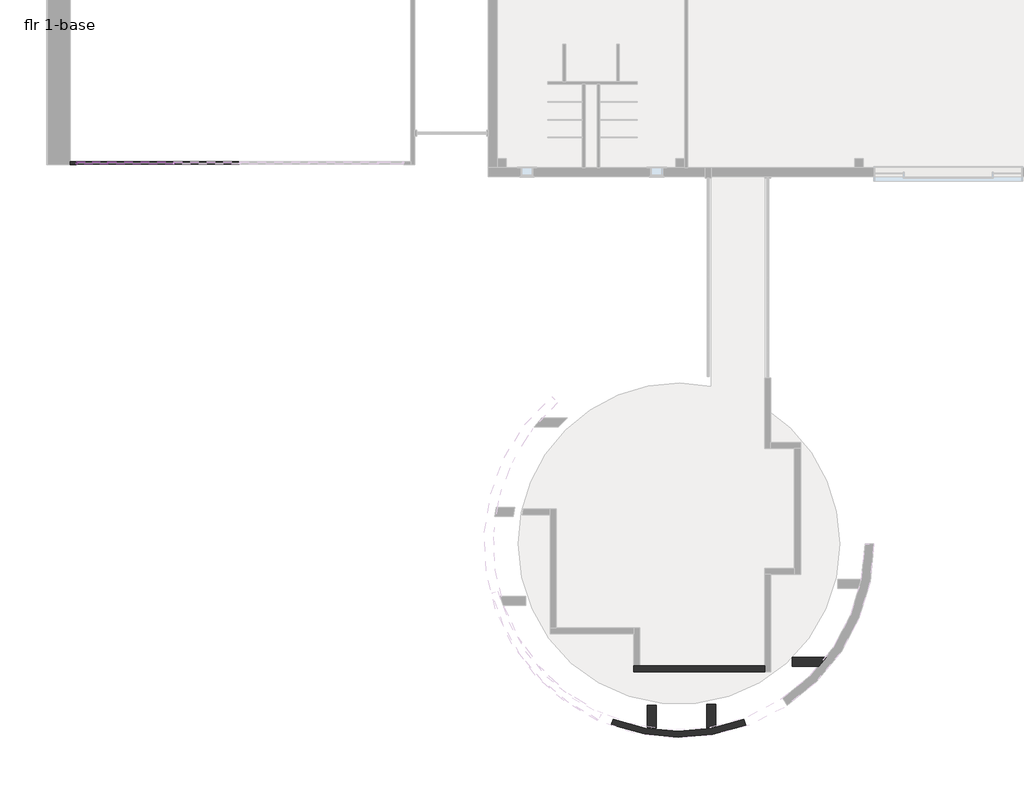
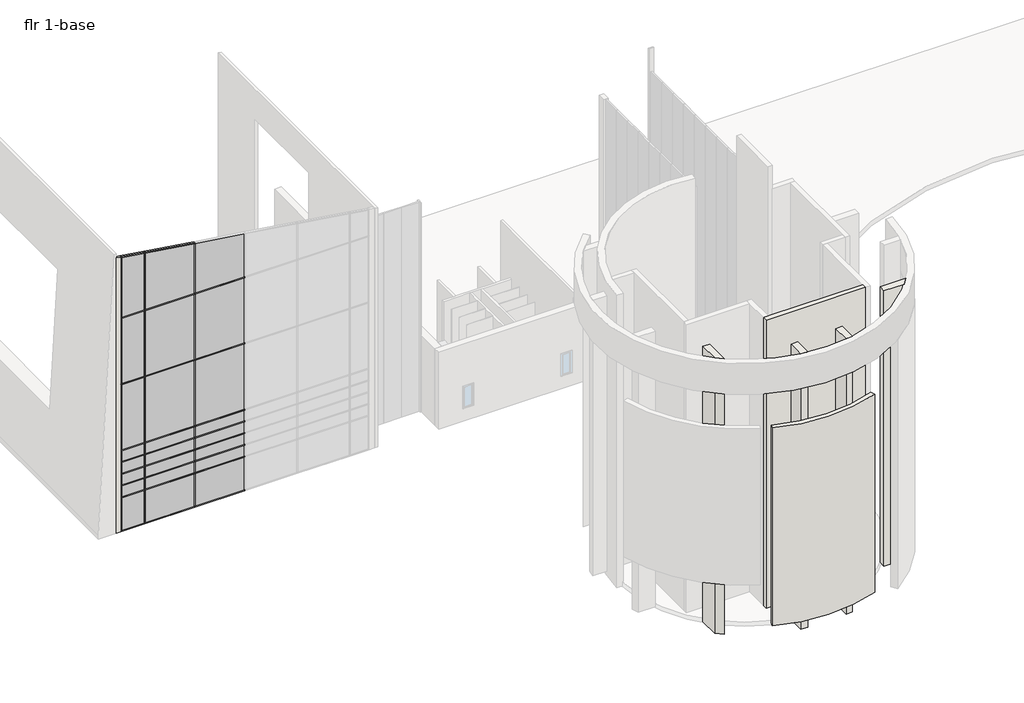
# One storey, part 1 of 5: 50 members, 24 plates, 7 walls.
"""IFC4 building model written with IfcOpenShell, lengths in millimetres."""

from ifc_helpers import new_model, si_unit, point, frame, frame_2d, origin, origin_with_axes, place, context, project, spatial, polyline, circle_curve, trimmed, segment, composite_curve, outline, extrude, faceted_brep, transform, mapped, element, save
from components import system_panel_system_panel_2bfd969f, system_panel_system_panel_0e6ba828, system_panel_system_panel_d1642839, system_panel_system_panel_565ce332, system_panel_system_panel_8f48589a, system_panel_system_panel_567afef9, system_panel_system_panel_943f1462, system_panel_system_panel_86a0993d, system_panel_system_panel_4b7a4dd4

model = new_model("IFC4")

# Units and contexts
model_context = context("Model", 3, world=origin())
ifc_project = project(units=[si_unit("LENGTHUNIT", "METRE", prefix="MILLI")], contexts=[model_context])

# Site, building, storey
site = spatial("IfcSite", under=ifc_project)
building = spatial("IfcBuilding", under=site)
storey = spatial("IfcBuildingStorey", under=building, Name="flr 1-base", Elevation=0.0)

# Members
placement = place(None, origin())
element("IfcMember", 1, ObjectType="Rectangular Mullion : 2.5\" x 5\" rectangular", at=placement, inside=storey, context=model_context, shape_type="SweptSolid", body=[
    extrude(outline(polyline([(-137116.490902, 25250.9071029), (-137116.490902, 25377.9071029), (-135500.981914, 25377.9071029), (-135500.981914, 25250.9071029), (-137116.490902, 25250.9071029)])), frame((0.0, 0.0, -304.8), z_axis=(0.0, 0.0, 1.0), x_axis=(1.0, 0.0, 0.0)), (0.0, 0.0, 1.0), 63.5),
])
element("IfcMember", 2, ObjectType="Rectangular Mullion : 2.5\" x 5\" rectangular", at=placement, inside=storey, context=model_context, shape_type="SweptSolid", body=[
    extrude(outline(polyline([(19236.6566492, -137052.990902), (19310.1390555, -137116.490902), (14966.95, -137116.490902), (14966.95, -137052.990902), (19236.6566492, -137052.990902)])), frame((0.0, 25250.9071029, 0.0), z_axis=(0.0, 1.0, 0.0), x_axis=(0.0, 0.0, 1.0)), (0.0, 0.0, 1.0), 127.0),
])
element("IfcMember", 3, ObjectType="Rectangular Mullion : 2.5\" x 5\" rectangular", at=placement, inside=storey, context=model_context, shape_type="SweptSolid", body=[
    extrude(outline(polyline([(-135469.231914, 25250.9071029), (-135532.731914, 25250.9071029), (-135532.731914, 25377.9071029), (-135469.231914, 25377.9071029), (-135469.231914, 25250.9071029)])), frame((0.0, 0.0, -241.3), z_axis=(0.0, 0.0, 1.0), x_axis=(1.0, 0.0, 0.0)), (0.0, 0.0, 1.0), 2343.15),
])
element("IfcMember", 4, ObjectType="Rectangular Mullion : 2.5\" x 5\" rectangular", at=placement, inside=storey, context=model_context, shape_type="SweptSolid", body=[
    extrude(outline(polyline([(-132085.986408, 25250.9071029), (-132149.486408, 25250.9071029), (-132149.486408, 25377.9071029), (-132085.986408, 25377.9071029), (-132085.986408, 25250.9071029)])), frame((0.0, 0.0, -241.3), z_axis=(0.0, 0.0, 1.0), x_axis=(1.0, 0.0, 0.0)), (0.0, 0.0, 1.0), 2343.15),
])
element("IfcMember", 5, ObjectType="Rectangular Mullion : 2.5\" x 5\" rectangular", at=placement, inside=storey, context=model_context, shape_type="SweptSolid", body=[
    extrude(outline(polyline([(-135500.981914, 25377.9071029), (-135500.981914, 25250.9071029), (-137116.490902, 25250.9071029), (-137116.490902, 25377.9071029), (-135500.981914, 25377.9071029)])), frame((0.0, 0.0, 2101.85), z_axis=(0.0, 0.0, 1.0), x_axis=(1.0, 0.0, 0.0)), (0.0, 0.0, 1.0), 63.5),
])
element("IfcMember", 6, ObjectType="Rectangular Mullion : 2.5\" x 5\" rectangular", at=placement, inside=storey, context=model_context, shape_type="SweptSolid", body=[
    extrude(outline(polyline([(-132117.736408, 25377.9071029), (-132117.736408, 25250.9071029), (-135500.981914, 25250.9071029), (-135500.981914, 25377.9071029), (-132117.736408, 25377.9071029)])), frame((0.0, 0.0, 2101.85), z_axis=(0.0, 0.0, 1.0), x_axis=(1.0, 0.0, 0.0)), (0.0, 0.0, 1.0), 63.5),
])
element("IfcMember", 7, ObjectType="Rectangular Mullion : 2.5\" x 5\" rectangular", at=placement, inside=storey, context=model_context, shape_type="SweptSolid", body=[
    extrude(outline(polyline([(-128734.490902, 25377.9071029), (-128734.490902, 25250.9071029), (-132117.736408, 25250.9071029), (-132117.736408, 25377.9071029), (-128734.490902, 25377.9071029)])), frame((0.0, 0.0, 2101.85), z_axis=(0.0, 0.0, 1.0), x_axis=(1.0, 0.0, 0.0)), (0.0, 0.0, 1.0), 63.5),
])
element("IfcMember", 8, ObjectType="Rectangular Mullion : 2.5\" x 5\" rectangular", at=placement, inside=storey, context=model_context, shape_type="SweptSolid", body=[
    extrude(outline(polyline([(-135500.981914, 25377.9071029), (-135500.981914, 25250.9071029), (-137116.490902, 25250.9071029), (-137116.490902, 25377.9071029), (-135500.981914, 25377.9071029)])), frame((0.0, 0.0, 5454.65), z_axis=(0.0, 0.0, 1.0), x_axis=(1.0, 0.0, 0.0)), (0.0, 0.0, 1.0), 63.5),
])
element("IfcMember", 9, ObjectType="Rectangular Mullion : 2.5\" x 5\" rectangular", at=placement, inside=storey, context=model_context, shape_type="SweptSolid", body=[
    extrude(outline(polyline([(-132117.736408, 25377.9071029), (-132117.736408, 25250.9071029), (-135500.981914, 25250.9071029), (-135500.981914, 25377.9071029), (-132117.736408, 25377.9071029)])), frame((0.0, 0.0, 5454.65), z_axis=(0.0, 0.0, 1.0), x_axis=(1.0, 0.0, 0.0)), (0.0, 0.0, 1.0), 63.5),
])
element("IfcMember", 10, ObjectType="Rectangular Mullion : 2.5\" x 5\" rectangular", at=placement, inside=storey, context=model_context, shape_type="SweptSolid", body=[
    extrude(outline(polyline([(-128734.490902, 25377.9071029), (-128734.490902, 25250.9071029), (-132117.736408, 25250.9071029), (-132117.736408, 25377.9071029), (-128734.490902, 25377.9071029)])), frame((0.0, 0.0, 5454.65), z_axis=(0.0, 0.0, 1.0), x_axis=(1.0, 0.0, 0.0)), (0.0, 0.0, 1.0), 63.5),
])
element("IfcMember", 11, ObjectType="Rectangular Mullion : 2.5\" x 5\" rectangular", at=placement, inside=storey, context=model_context, shape_type="SweptSolid", body=[
    extrude(outline(polyline([(-135500.981914, 25377.9071029), (-135500.981914, 25250.9071029), (-137116.490902, 25250.9071029), (-137116.490902, 25377.9071029), (-135500.981914, 25377.9071029)])), frame((0.0, 0.0, 10179.05), z_axis=(0.0, 0.0, 1.0), x_axis=(1.0, 0.0, 0.0)), (0.0, 0.0, 1.0), 63.5),
])
element("IfcMember", 12, ObjectType="Rectangular Mullion : 2.5\" x 5\" rectangular", at=placement, inside=storey, context=model_context, shape_type="SweptSolid", body=[
    extrude(outline(polyline([(-132117.736408, 25377.9071029), (-132117.736408, 25250.9071029), (-135500.981914, 25250.9071029), (-135500.981914, 25377.9071029), (-132117.736408, 25377.9071029)])), frame((0.0, 0.0, 10179.05), z_axis=(0.0, 0.0, 1.0), x_axis=(1.0, 0.0, 0.0)), (0.0, 0.0, 1.0), 63.5),
])
element("IfcMember", 13, ObjectType="Rectangular Mullion : 2.5\" x 5\" rectangular", at=placement, inside=storey, context=model_context, shape_type="SweptSolid", body=[
    extrude(outline(polyline([(-128734.490902, 25377.9071029), (-128734.490902, 25250.9071029), (-132117.736408, 25250.9071029), (-132117.736408, 25377.9071029), (-128734.490902, 25377.9071029)])), frame((0.0, 0.0, 10179.05), z_axis=(0.0, 0.0, 1.0), x_axis=(1.0, 0.0, 0.0)), (0.0, 0.0, 1.0), 63.5),
])
element("IfcMember", 14, ObjectType="Rectangular Mullion : 2.5\" x 5\" rectangular", at=placement, inside=storey, context=model_context, shape_type="SweptSolid", body=[
    extrude(outline(polyline([(-135500.981914, 25377.9071029), (-135500.981914, 25250.9071029), (-137116.490902, 25250.9071029), (-137116.490902, 25377.9071029), (-135500.981914, 25377.9071029)])), frame((0.0, 0.0, 14903.45), z_axis=(0.0, 0.0, 1.0), x_axis=(1.0, 0.0, 0.0)), (0.0, 0.0, 1.0), 63.5),
])
element("IfcMember", 15, ObjectType="Rectangular Mullion : 2.5\" x 5\" rectangular", at=placement, inside=storey, context=model_context, shape_type="SweptSolid", body=[
    extrude(outline(polyline([(-132117.736408, 25377.9071029), (-132117.736408, 25250.9071029), (-135500.981914, 25250.9071029), (-135500.981914, 25377.9071029), (-132117.736408, 25377.9071029)])), frame((0.0, 0.0, 14903.45), z_axis=(0.0, 0.0, 1.0), x_axis=(1.0, 0.0, 0.0)), (0.0, 0.0, 1.0), 63.5),
])
element("IfcMember", 16, ObjectType="Rectangular Mullion : 2.5\" x 5\" rectangular", at=placement, inside=storey, context=model_context, shape_type="SweptSolid", body=[
    extrude(outline(polyline([(-128734.490902, 25377.9071029), (-128734.490902, 25250.9071029), (-132117.736408, 25250.9071029), (-132117.736408, 25377.9071029), (-128734.490902, 25377.9071029)])), frame((0.0, 0.0, 14903.45), z_axis=(0.0, 0.0, 1.0), x_axis=(1.0, 0.0, 0.0)), (0.0, 0.0, 1.0), 63.5),
])
element("IfcMember", 17, ObjectType="Rectangular Mullion : 2.5\" x 5\" rectangular", at=placement, inside=storey, context=model_context, shape_type="SweptSolid", body=[
    extrude(outline(polyline([(-135500.981914, 25377.9071029), (-135500.981914, 25250.9071029), (-137116.490902, 25250.9071029), (-137116.490902, 25377.9071029), (-135500.981914, 25377.9071029)])), frame((0.0, 0.0, 3778.25), z_axis=(0.0, 0.0, 1.0), x_axis=(1.0, 0.0, 0.0)), (0.0, 0.0, 1.0), 63.5),
])
element("IfcMember", 18, ObjectType="Rectangular Mullion : 2.5\" x 5\" rectangular", at=placement, inside=storey, context=model_context, shape_type="SweptSolid", body=[
    extrude(outline(polyline([(-132117.736408, 25377.9071029), (-132117.736408, 25250.9071029), (-135500.981914, 25250.9071029), (-135500.981914, 25377.9071029), (-132117.736408, 25377.9071029)])), frame((0.0, 0.0, 3778.25), z_axis=(0.0, 0.0, 1.0), x_axis=(1.0, 0.0, 0.0)), (0.0, 0.0, 1.0), 63.5),
])
element("IfcMember", 19, ObjectType="Rectangular Mullion : 2.5\" x 5\" rectangular", at=placement, inside=storey, context=model_context, shape_type="SweptSolid", body=[
    extrude(outline(polyline([(-128734.490902, 25377.9071029), (-128734.490902, 25250.9071029), (-132117.736408, 25250.9071029), (-132117.736408, 25377.9071029), (-128734.490902, 25377.9071029)])), frame((0.0, 0.0, 3778.25), z_axis=(0.0, 0.0, 1.0), x_axis=(1.0, 0.0, 0.0)), (0.0, 0.0, 1.0), 63.5),
])
element("IfcMember", 20, ObjectType="Rectangular Mullion : 2.5\" x 5\" rectangular", at=placement, inside=storey, context=model_context, shape_type="SweptSolid", body=[
    extrude(outline(polyline([(-135500.981914, 25377.9071029), (-135500.981914, 25250.9071029), (-137116.490902, 25250.9071029), (-137116.490902, 25377.9071029), (-135500.981914, 25377.9071029)])), frame((0.0, 0.0, 2940.05), z_axis=(0.0, 0.0, 1.0), x_axis=(1.0, 0.0, 0.0)), (0.0, 0.0, 1.0), 63.5),
])
element("IfcMember", 21, ObjectType="Rectangular Mullion : 2.5\" x 5\" rectangular", at=placement, inside=storey, context=model_context, shape_type="SweptSolid", body=[
    extrude(outline(polyline([(-132117.736408, 25377.9071029), (-132117.736408, 25250.9071029), (-135500.981914, 25250.9071029), (-135500.981914, 25377.9071029), (-132117.736408, 25377.9071029)])), frame((0.0, 0.0, 2940.05), z_axis=(0.0, 0.0, 1.0), x_axis=(1.0, 0.0, 0.0)), (0.0, 0.0, 1.0), 63.5),
])
element("IfcMember", 22, ObjectType="Rectangular Mullion : 2.5\" x 5\" rectangular", at=placement, inside=storey, context=model_context, shape_type="SweptSolid", body=[
    extrude(outline(polyline([(-128734.490902, 25377.9071029), (-128734.490902, 25250.9071029), (-132117.736408, 25250.9071029), (-132117.736408, 25377.9071029), (-128734.490902, 25377.9071029)])), frame((0.0, 0.0, 2940.05), z_axis=(0.0, 0.0, 1.0), x_axis=(1.0, 0.0, 0.0)), (0.0, 0.0, 1.0), 63.5),
])
element("IfcMember", 23, ObjectType="Rectangular Mullion : 2.5\" x 5\" rectangular", at=placement, inside=storey, context=model_context, shape_type="SweptSolid", body=[
    extrude(outline(polyline([(-135500.981914, 25377.9071029), (-135500.981914, 25250.9071029), (-137116.490902, 25250.9071029), (-137116.490902, 25377.9071029), (-135500.981914, 25377.9071029)])), frame((0.0, 0.0, 4616.45), z_axis=(0.0, 0.0, 1.0), x_axis=(1.0, 0.0, 0.0)), (0.0, 0.0, 1.0), 63.5),
])
element("IfcMember", 24, ObjectType="Rectangular Mullion : 2.5\" x 5\" rectangular", at=placement, inside=storey, context=model_context, shape_type="SweptSolid", body=[
    extrude(outline(polyline([(-132117.736408, 25377.9071029), (-132117.736408, 25250.9071029), (-135500.981914, 25250.9071029), (-135500.981914, 25377.9071029), (-132117.736408, 25377.9071029)])), frame((0.0, 0.0, 4616.45), z_axis=(0.0, 0.0, 1.0), x_axis=(1.0, 0.0, 0.0)), (0.0, 0.0, 1.0), 63.5),
])
element("IfcMember", 25, ObjectType="Rectangular Mullion : 2.5\" x 5\" rectangular", at=placement, inside=storey, context=model_context, shape_type="SweptSolid", body=[
    extrude(outline(polyline([(-128734.490902, 25377.9071029), (-128734.490902, 25250.9071029), (-132117.736408, 25250.9071029), (-132117.736408, 25377.9071029), (-128734.490902, 25377.9071029)])), frame((0.0, 0.0, 4616.45), z_axis=(0.0, 0.0, 1.0), x_axis=(1.0, 0.0, 0.0)), (0.0, 0.0, 1.0), 63.5),
])
element("IfcMember", 26, ObjectType="Rectangular Mullion : 2.5\" x 5\" rectangular", at=placement, inside=storey, context=model_context, shape_type="SweptSolid", body=[
    extrude(outline(polyline([(-135500.981914, 25250.9071029), (-135500.981914, 25377.9071029), (-132117.736408, 25377.9071029), (-132117.736408, 25250.9071029), (-135500.981914, 25250.9071029)])), frame((0.0, 0.0, -304.8), z_axis=(0.0, 0.0, 1.0), x_axis=(1.0, 0.0, 0.0)), (0.0, 0.0, 1.0), 63.5),
])
element("IfcMember", 27, ObjectType="Rectangular Mullion : 2.5\" x 5\" rectangular", at=placement, inside=storey, context=model_context, shape_type="SweptSolid", body=[
    extrude(outline(polyline([(-132117.736408, 25250.9071029), (-132117.736408, 25377.9071029), (-128734.490902, 25377.9071029), (-128734.490902, 25250.9071029), (-132117.736408, 25250.9071029)])), frame((0.0, 0.0, -304.8), z_axis=(0.0, 0.0, 1.0), x_axis=(1.0, 0.0, 0.0)), (0.0, 0.0, 1.0), 63.5),
])
element("IfcMember", 28, ObjectType="Rectangular Mullion : 2.5\" x 5\" rectangular", at=placement, inside=storey, context=model_context, shape_type="SweptSolid", body=[
    extrude(outline(polyline([(19010.5968203, -135510.1879765), (19073.4259411, -135500.981914), (19310.1390555, -137116.490902), (19236.6566492, -137052.990902), (19010.5968203, -135510.1879765)])), frame((0.0, 25250.9071029, 0.0), z_axis=(0.0, 1.0, 0.0), x_axis=(0.0, 0.0, 1.0)), (0.0, 0.0, 1.0), 127.0),
])
element("IfcMember", 29, ObjectType="Rectangular Mullion : 2.5\" x 5\" rectangular", at=placement, inside=storey, context=model_context, shape_type="SweptSolid", body=[
    extrude(outline(polyline([(0.0, -127.0), (0.0, 0.0), (3419.3712585, 0.0), (3419.3712585, -127.0), (0.0, -127.0)])), frame((-132126.9424706, 25250.9071029, 18514.8653905), z_axis=(0.14497736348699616, 0.0, 0.989434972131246), x_axis=(-0.989434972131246, 0.0, 0.14497736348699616)), (0.0, 0.0, 1.0), 63.5),
])
element("IfcMember", 30, ObjectType="Rectangular Mullion : 2.5\" x 5\" rectangular", at=placement, inside=storey, context=model_context, shape_type="SweptSolid", body=[
    extrude(outline(polyline([(-137116.490902, 25250.9071029), (-137116.490902, 25377.9071029), (-137052.990902, 25377.9071029), (-137052.990902, 25250.9071029), (-137116.490902, 25250.9071029)])), frame((0.0, 0.0, -241.3), z_axis=(0.0, 0.0, 1.0), x_axis=(1.0, 0.0, 0.0)), (0.0, 0.0, 1.0), 2343.15),
])
element("IfcMember", 31, ObjectType="Rectangular Mullion : 2.5\" x 5\" rectangular", at=placement, inside=storey, context=model_context, shape_type="SweptSolid", body=[
    extrude(outline(polyline([(-137116.490902, 25250.9071029), (-137116.490902, 25377.9071029), (-137052.990902, 25377.9071029), (-137052.990902, 25250.9071029), (-137116.490902, 25250.9071029)])), frame((0.0, 0.0, 4679.95), z_axis=(0.0, 0.0, 1.0), x_axis=(1.0, 0.0, 0.0)), (0.0, 0.0, 1.0), 774.7),
])
element("IfcMember", 32, ObjectType="Rectangular Mullion : 2.5\" x 5\" rectangular", at=placement, inside=storey, context=model_context, shape_type="SweptSolid", body=[
    extrude(outline(polyline([(-137116.490902, 25250.9071029), (-137116.490902, 25377.9071029), (-137052.990902, 25377.9071029), (-137052.990902, 25250.9071029), (-137116.490902, 25250.9071029)])), frame((0.0, 0.0, 5518.15), z_axis=(0.0, 0.0, 1.0), x_axis=(1.0, 0.0, 0.0)), (0.0, 0.0, 1.0), 4660.9),
])
element("IfcMember", 33, ObjectType="Rectangular Mullion : 2.5\" x 5\" rectangular", at=placement, inside=storey, context=model_context, shape_type="SweptSolid", body=[
    extrude(outline(polyline([(-137116.490902, 25250.9071029), (-137116.490902, 25377.9071029), (-137052.990902, 25377.9071029), (-137052.990902, 25250.9071029), (-137116.490902, 25250.9071029)])), frame((0.0, 0.0, 10242.55), z_axis=(0.0, 0.0, 1.0), x_axis=(1.0, 0.0, 0.0)), (0.0, 0.0, 1.0), 4660.9),
])
element("IfcMember", 34, ObjectType="Rectangular Mullion : 2.5\" x 5\" rectangular", at=placement, inside=storey, context=model_context, shape_type="SweptSolid", body=[
    extrude(outline(polyline([(-137116.490902, 25250.9071029), (-137116.490902, 25377.9071029), (-137052.990902, 25377.9071029), (-137052.990902, 25250.9071029), (-137116.490902, 25250.9071029)])), frame((0.0, 0.0, 3003.55), z_axis=(0.0, 0.0, 1.0), x_axis=(1.0, 0.0, 0.0)), (0.0, 0.0, 1.0), 774.7),
])
element("IfcMember", 35, ObjectType="Rectangular Mullion : 2.5\" x 5\" rectangular", at=placement, inside=storey, context=model_context, shape_type="SweptSolid", body=[
    extrude(outline(polyline([(-137116.490902, 25250.9071029), (-137116.490902, 25377.9071029), (-137052.990902, 25377.9071029), (-137052.990902, 25250.9071029), (-137116.490902, 25250.9071029)])), frame((0.0, 0.0, 2165.35), z_axis=(0.0, 0.0, 1.0), x_axis=(1.0, 0.0, 0.0)), (0.0, 0.0, 1.0), 774.7),
])
element("IfcMember", 36, ObjectType="Rectangular Mullion : 2.5\" x 5\" rectangular", at=placement, inside=storey, context=model_context, shape_type="SweptSolid", body=[
    extrude(outline(polyline([(-137116.490902, 25250.9071029), (-137116.490902, 25377.9071029), (-137052.990902, 25377.9071029), (-137052.990902, 25250.9071029), (-137116.490902, 25250.9071029)])), frame((0.0, 0.0, 3841.75), z_axis=(0.0, 0.0, 1.0), x_axis=(1.0, 0.0, 0.0)), (0.0, 0.0, 1.0), 774.7),
])
element("IfcMember", 37, ObjectType="Rectangular Mullion : 2.5\" x 5\" rectangular", at=placement, inside=storey, context=model_context, shape_type="SweptSolid", body=[
    extrude(outline(polyline([(-135469.231914, 25250.9071029), (-135532.731914, 25250.9071029), (-135532.731914, 25377.9071029), (-135469.231914, 25377.9071029), (-135469.231914, 25250.9071029)])), frame((0.0, 0.0, 2165.35), z_axis=(0.0, 0.0, 1.0), x_axis=(1.0, 0.0, 0.0)), (0.0, 0.0, 1.0), 774.7),
])
element("IfcMember", 38, ObjectType="Rectangular Mullion : 2.5\" x 5\" rectangular", at=placement, inside=storey, context=model_context, shape_type="SweptSolid", body=[
    extrude(outline(polyline([(-135469.231914, 25250.9071029), (-135532.731914, 25250.9071029), (-135532.731914, 25377.9071029), (-135469.231914, 25377.9071029), (-135469.231914, 25250.9071029)])), frame((0.0, 0.0, 5518.15), z_axis=(0.0, 0.0, 1.0), x_axis=(1.0, 0.0, 0.0)), (0.0, 0.0, 1.0), 4660.9),
])
element("IfcMember", 39, ObjectType="Rectangular Mullion : 2.5\" x 5\" rectangular", at=placement, inside=storey, context=model_context, shape_type="SweptSolid", body=[
    extrude(outline(polyline([(-135469.231914, 25250.9071029), (-135532.731914, 25250.9071029), (-135532.731914, 25377.9071029), (-135469.231914, 25377.9071029), (-135469.231914, 25250.9071029)])), frame((0.0, 0.0, 10242.55), z_axis=(0.0, 0.0, 1.0), x_axis=(1.0, 0.0, 0.0)), (0.0, 0.0, 1.0), 4660.9),
])
element("IfcMember", 40, ObjectType="Rectangular Mullion : 2.5\" x 5\" rectangular", at=placement, inside=storey, context=model_context, shape_type="SweptSolid", body=[
    extrude(outline(polyline([(14966.95, -135532.731914), (14966.95, -135469.231914), (19004.5957165, -135469.231914), (19010.5968203, -135510.1879765), (19013.90008, -135532.731914), (14966.95, -135532.731914)])), frame((0.0, 25250.9071029, 0.0), z_axis=(0.0, 1.0, 0.0), x_axis=(0.0, 0.0, 1.0)), (0.0, 0.0, 1.0), 127.0),
])
element("IfcMember", 41, ObjectType="Rectangular Mullion : 2.5\" x 5\" rectangular", at=placement, inside=storey, context=model_context, shape_type="SweptSolid", body=[
    extrude(outline(polyline([(-135469.231914, 25250.9071029), (-135532.731914, 25250.9071029), (-135532.731914, 25377.9071029), (-135469.231914, 25377.9071029), (-135469.231914, 25250.9071029)])), frame((0.0, 0.0, 3841.75), z_axis=(0.0, 0.0, 1.0), x_axis=(1.0, 0.0, 0.0)), (0.0, 0.0, 1.0), 774.7),
])
element("IfcMember", 42, ObjectType="Rectangular Mullion : 2.5\" x 5\" rectangular", at=placement, inside=storey, context=model_context, shape_type="SweptSolid", body=[
    extrude(outline(polyline([(-135469.231914, 25250.9071029), (-135532.731914, 25250.9071029), (-135532.731914, 25377.9071029), (-135469.231914, 25377.9071029), (-135469.231914, 25250.9071029)])), frame((0.0, 0.0, 3003.55), z_axis=(0.0, 0.0, 1.0), x_axis=(1.0, 0.0, 0.0)), (0.0, 0.0, 1.0), 774.7),
])
element("IfcMember", 43, ObjectType="Rectangular Mullion : 2.5\" x 5\" rectangular", at=placement, inside=storey, context=model_context, shape_type="SweptSolid", body=[
    extrude(outline(polyline([(-135469.231914, 25250.9071029), (-135532.731914, 25250.9071029), (-135532.731914, 25377.9071029), (-135469.231914, 25377.9071029), (-135469.231914, 25250.9071029)])), frame((0.0, 0.0, 4679.95), z_axis=(0.0, 0.0, 1.0), x_axis=(1.0, 0.0, 0.0)), (0.0, 0.0, 1.0), 774.7),
])
element("IfcMember", 44, ObjectType="Rectangular Mullion : 2.5\" x 5\" rectangular", at=placement, inside=storey, context=model_context, shape_type="SweptSolid", body=[
    extrude(outline(polyline([(-132085.986408, 25250.9071029), (-132149.486408, 25250.9071029), (-132149.486408, 25377.9071029), (-132085.986408, 25377.9071029), (-132085.986408, 25250.9071029)])), frame((0.0, 0.0, 2165.35), z_axis=(0.0, 0.0, 1.0), x_axis=(1.0, 0.0, 0.0)), (0.0, 0.0, 1.0), 774.7),
])
element("IfcMember", 45, ObjectType="Rectangular Mullion : 2.5\" x 5\" rectangular", at=placement, inside=storey, context=model_context, shape_type="SweptSolid", body=[
    extrude(outline(polyline([(-132085.986408, 25250.9071029), (-132149.486408, 25250.9071029), (-132149.486408, 25377.9071029), (-132085.986408, 25377.9071029), (-132085.986408, 25250.9071029)])), frame((0.0, 0.0, 5518.15), z_axis=(0.0, 0.0, 1.0), x_axis=(1.0, 0.0, 0.0)), (0.0, 0.0, 1.0), 4660.9),
])
element("IfcMember", 46, ObjectType="Rectangular Mullion : 2.5\" x 5\" rectangular", at=placement, inside=storey, context=model_context, shape_type="SweptSolid", body=[
    extrude(outline(polyline([(-132085.986408, 25250.9071029), (-132149.486408, 25250.9071029), (-132149.486408, 25377.9071029), (-132085.986408, 25377.9071029), (-132085.986408, 25250.9071029)])), frame((0.0, 0.0, 10242.55), z_axis=(0.0, 0.0, 1.0), x_axis=(1.0, 0.0, 0.0)), (0.0, 0.0, 1.0), 4660.9),
])
element("IfcMember", 47, ObjectType="Rectangular Mullion : 2.5\" x 5\" rectangular", at=placement, inside=storey, context=model_context, shape_type="SweptSolid", body=[
    extrude(outline(polyline([(14966.95, -132149.486408), (14966.95, -132085.986408), (18508.8642867, -132085.986408), (18514.8653905, -132126.9424706), (18518.1686501, -132149.486408), (14966.95, -132149.486408)])), frame((0.0, 25250.9071029, 0.0), z_axis=(0.0, 1.0, 0.0), x_axis=(0.0, 0.0, 1.0)), (0.0, 0.0, 1.0), 127.0),
])
element("IfcMember", 48, ObjectType="Rectangular Mullion : 2.5\" x 5\" rectangular", at=placement, inside=storey, context=model_context, shape_type="SweptSolid", body=[
    extrude(outline(polyline([(-132085.986408, 25250.9071029), (-132149.486408, 25250.9071029), (-132149.486408, 25377.9071029), (-132085.986408, 25377.9071029), (-132085.986408, 25250.9071029)])), frame((0.0, 0.0, 3841.75), z_axis=(0.0, 0.0, 1.0), x_axis=(1.0, 0.0, 0.0)), (0.0, 0.0, 1.0), 774.7),
])
element("IfcMember", 49, ObjectType="Rectangular Mullion : 2.5\" x 5\" rectangular", at=placement, inside=storey, context=model_context, shape_type="SweptSolid", body=[
    extrude(outline(polyline([(-132085.986408, 25250.9071029), (-132149.486408, 25250.9071029), (-132149.486408, 25377.9071029), (-132085.986408, 25377.9071029), (-132085.986408, 25250.9071029)])), frame((0.0, 0.0, 3003.55), z_axis=(0.0, 0.0, 1.0), x_axis=(1.0, 0.0, 0.0)), (0.0, 0.0, 1.0), 774.7),
])
element("IfcMember", 50, ObjectType="Rectangular Mullion : 2.5\" x 5\" rectangular", at=placement, inside=storey, context=model_context, shape_type="SweptSolid", body=[
    extrude(outline(polyline([(-132085.986408, 25250.9071029), (-132149.486408, 25250.9071029), (-132149.486408, 25377.9071029), (-132085.986408, 25377.9071029), (-132085.986408, 25250.9071029)])), frame((0.0, 0.0, 4679.95), z_axis=(0.0, 0.0, 1.0), x_axis=(1.0, 0.0, 0.0)), (0.0, 0.0, 1.0), 774.7),
])

# Plates
system_panel_system_panel_shape = system_panel_system_panel_2bfd969f(model_context)
element("IfcPlate", 51, ObjectType="System Panel : System Panel", at=placement, inside=storey, context=model_context, shape_type="MappedRepresentation", body=[
    mapped(system_panel_system_panel_shape, transform((-136292.861408, 25314.4071029, -241.3), x_axis=(1.0, 0.0, 0.0), y_axis=(0.0, 1.0, 0.0), z_axis=(0.0, 0.0, 1.0))),
])
system_panel_system_panel_2_shape = system_panel_system_panel_0e6ba828(model_context)
element("IfcPlate", 52, ObjectType="System Panel : System Panel", at=placement, inside=storey, context=model_context, shape_type="MappedRepresentation", body=[
    mapped(system_panel_system_panel_2_shape, transform((-133809.359161, 25314.4071029, -241.3), x_axis=(1.0, 0.0, 0.0), y_axis=(0.0, 1.0, 0.0), z_axis=(0.0, 0.0, 1.0))),
])
element("IfcPlate", 53, ObjectType="System Panel : System Panel", at=placement, inside=storey, context=model_context, shape_type="MappedRepresentation", body=[
    mapped(system_panel_system_panel_2_shape, transform((-130426.113655, 25314.4071029, -241.3), x_axis=(1.0, 0.0, 0.0), y_axis=(0.0, 1.0, 0.0), z_axis=(0.0, 0.0, 1.0))),
])
system_panel_system_panel_3_shape = system_panel_system_panel_d1642839(model_context)
element("IfcPlate", 54, ObjectType="System Panel : System Panel", at=placement, inside=storey, context=model_context, shape_type="MappedRepresentation", body=[
    mapped(system_panel_system_panel_3_shape, transform((-136292.861408, 25314.4071029, 2165.35), x_axis=(1.0, 0.0, 0.0), y_axis=(0.0, 1.0, 0.0), z_axis=(0.0, 0.0, 1.0))),
])
element("IfcPlate", 55, ObjectType="System Panel : System Panel", at=placement, inside=storey, context=model_context, shape_type="MappedRepresentation", body=[
    mapped(system_panel_system_panel_3_shape, transform((-136292.861408, 25314.4071029, 3841.75), x_axis=(1.0, 0.0, 0.0), y_axis=(0.0, 1.0, 0.0), z_axis=(0.0, 0.0, 1.0))),
])
element("IfcPlate", 56, ObjectType="System Panel : System Panel", at=placement, inside=storey, context=model_context, shape_type="MappedRepresentation", body=[
    mapped(system_panel_system_panel_3_shape, transform((-136292.861408, 25314.4071029, 3003.55), x_axis=(1.0, 0.0, 0.0), y_axis=(0.0, 1.0, 0.0), z_axis=(0.0, 0.0, 1.0))),
])
element("IfcPlate", 57, ObjectType="System Panel : System Panel", at=placement, inside=storey, context=model_context, shape_type="MappedRepresentation", body=[
    mapped(system_panel_system_panel_3_shape, transform((-136292.861408, 25314.4071029, 4679.95), x_axis=(1.0, 0.0, 0.0), y_axis=(0.0, 1.0, 0.0), z_axis=(0.0, 0.0, 1.0))),
])
system_panel_system_panel_4_shape = system_panel_system_panel_565ce332(model_context)
element("IfcPlate", 58, ObjectType="System Panel : System Panel", at=placement, inside=storey, context=model_context, shape_type="MappedRepresentation", body=[
    mapped(system_panel_system_panel_4_shape, transform((-133809.359161, 25314.4071029, 2165.35), x_axis=(1.0, 0.0, 0.0), y_axis=(0.0, 1.0, 0.0), z_axis=(0.0, 0.0, 1.0))),
])
element("IfcPlate", 59, ObjectType="System Panel : System Panel", at=placement, inside=storey, context=model_context, shape_type="MappedRepresentation", body=[
    mapped(system_panel_system_panel_4_shape, transform((-130426.113655, 25314.4071029, 2165.35), x_axis=(1.0, 0.0, 0.0), y_axis=(0.0, 1.0, 0.0), z_axis=(0.0, 0.0, 1.0))),
])
element("IfcPlate", 60, ObjectType="System Panel : System Panel", at=placement, inside=storey, context=model_context, shape_type="MappedRepresentation", body=[
    mapped(system_panel_system_panel_4_shape, transform((-133809.359161, 25314.4071029, 3841.75), x_axis=(1.0, 0.0, 0.0), y_axis=(0.0, 1.0, 0.0), z_axis=(0.0, 0.0, 1.0))),
])
element("IfcPlate", 61, ObjectType="System Panel : System Panel", at=placement, inside=storey, context=model_context, shape_type="MappedRepresentation", body=[
    mapped(system_panel_system_panel_4_shape, transform((-130426.113655, 25314.4071029, 3841.75), x_axis=(1.0, 0.0, 0.0), y_axis=(0.0, 1.0, 0.0), z_axis=(0.0, 0.0, 1.0))),
])
element("IfcPlate", 62, ObjectType="System Panel : System Panel", at=placement, inside=storey, context=model_context, shape_type="MappedRepresentation", body=[
    mapped(system_panel_system_panel_4_shape, transform((-133809.359161, 25314.4071029, 3003.55), x_axis=(1.0, 0.0, 0.0), y_axis=(0.0, 1.0, 0.0), z_axis=(0.0, 0.0, 1.0))),
])
element("IfcPlate", 63, ObjectType="System Panel : System Panel", at=placement, inside=storey, context=model_context, shape_type="MappedRepresentation", body=[
    mapped(system_panel_system_panel_4_shape, transform((-130426.113655, 25314.4071029, 3003.55), x_axis=(1.0, 0.0, 0.0), y_axis=(0.0, 1.0, 0.0), z_axis=(0.0, 0.0, 1.0))),
])
element("IfcPlate", 64, ObjectType="System Panel : System Panel", at=placement, inside=storey, context=model_context, shape_type="MappedRepresentation", body=[
    mapped(system_panel_system_panel_4_shape, transform((-133809.359161, 25314.4071029, 4679.95), x_axis=(1.0, 0.0, 0.0), y_axis=(0.0, 1.0, 0.0), z_axis=(0.0, 0.0, 1.0))),
])
element("IfcPlate", 65, ObjectType="System Panel : System Panel", at=placement, inside=storey, context=model_context, shape_type="MappedRepresentation", body=[
    mapped(system_panel_system_panel_4_shape, transform((-130426.113655, 25314.4071029, 4679.95), x_axis=(1.0, 0.0, 0.0), y_axis=(0.0, 1.0, 0.0), z_axis=(0.0, 0.0, 1.0))),
])
system_panel_system_panel_5_shape = system_panel_system_panel_8f48589a(model_context)
element("IfcPlate", 66, ObjectType="System Panel : System Panel", at=placement, inside=storey, context=model_context, shape_type="MappedRepresentation", body=[
    mapped(system_panel_system_panel_5_shape, transform((-136292.861408, 25314.4071029, 5518.15), x_axis=(1.0, 0.0, 0.0), y_axis=(0.0, 1.0, 0.0), z_axis=(0.0, 0.0, 1.0))),
])
element("IfcPlate", 67, ObjectType="System Panel : System Panel", at=placement, inside=storey, context=model_context, shape_type="MappedRepresentation", body=[
    mapped(system_panel_system_panel_5_shape, transform((-136292.861408, 25314.4071029, 10242.55), x_axis=(1.0, 0.0, 0.0), y_axis=(0.0, 1.0, 0.0), z_axis=(0.0, 0.0, 1.0))),
])
system_panel_system_panel_6_shape = system_panel_system_panel_567afef9(model_context)
element("IfcPlate", 68, ObjectType="System Panel : System Panel", at=placement, inside=storey, context=model_context, shape_type="MappedRepresentation", body=[
    mapped(system_panel_system_panel_6_shape, transform((-133809.359161, 25314.4071029, 5518.15), x_axis=(1.0, 0.0, 0.0), y_axis=(0.0, 1.0, 0.0), z_axis=(0.0, 0.0, 1.0))),
])
element("IfcPlate", 69, ObjectType="System Panel : System Panel", at=placement, inside=storey, context=model_context, shape_type="MappedRepresentation", body=[
    mapped(system_panel_system_panel_6_shape, transform((-130426.113655, 25314.4071029, 5518.15), x_axis=(1.0, 0.0, 0.0), y_axis=(0.0, 1.0, 0.0), z_axis=(0.0, 0.0, 1.0))),
])
element("IfcPlate", 70, ObjectType="System Panel : System Panel", at=placement, inside=storey, context=model_context, shape_type="MappedRepresentation", body=[
    mapped(system_panel_system_panel_6_shape, transform((-133809.359161, 25314.4071029, 10242.55), x_axis=(1.0, 0.0, 0.0), y_axis=(0.0, 1.0, 0.0), z_axis=(0.0, 0.0, 1.0))),
])
element("IfcPlate", 71, ObjectType="System Panel : System Panel", at=placement, inside=storey, context=model_context, shape_type="MappedRepresentation", body=[
    mapped(system_panel_system_panel_6_shape, transform((-130426.113655, 25314.4071029, 10242.55), x_axis=(1.0, 0.0, 0.0), y_axis=(0.0, 1.0, 0.0), z_axis=(0.0, 0.0, 1.0))),
])
system_panel_system_panel_7_shape = system_panel_system_panel_943f1462(model_context)
element("IfcPlate", 72, ObjectType="System Panel : System Panel", at=placement, inside=storey, context=model_context, shape_type="MappedRepresentation", body=[
    mapped(system_panel_system_panel_7_shape, transform((-136292.861408, 25314.4071029, 14966.95), x_axis=(1.0, 0.0, 0.0), y_axis=(0.0, 1.0, 0.0), z_axis=(0.0, 0.0, 1.0))),
])
system_panel_system_panel_8_shape = system_panel_system_panel_86a0993d(model_context)
element("IfcPlate", 73, ObjectType="System Panel : System Panel", at=placement, inside=storey, context=model_context, shape_type="MappedRepresentation", body=[
    mapped(system_panel_system_panel_8_shape, transform((-133809.359161, 25314.4071029, 14966.95), x_axis=(1.0, 0.0, 0.0), y_axis=(0.0, 1.0, 0.0), z_axis=(0.0, 0.0, 1.0))),
])
system_panel_system_panel_9_shape = system_panel_system_panel_4b7a4dd4(model_context)
element("IfcPlate", 74, ObjectType="System Panel : System Panel", at=placement, inside=storey, context=model_context, shape_type="MappedRepresentation", body=[
    mapped(system_panel_system_panel_9_shape, transform((-130426.113655, 25314.4071029, 14966.95), x_axis=(1.0, 0.0, 0.0), y_axis=(0.0, 1.0, 0.0), z_axis=(0.0, 0.0, 1.0))),
])

# Walls
element("IfcWall", 75, ObjectType="Generic - 6\"", at=placement, inside=storey, context=model_context, shape_type="SweptSolid", body=[
    extrude(outline(polyline([(-304.8, -137421.290902), (-304.8, -137116.490902), (19310.1390555, -137116.490902), (19354.8, -137421.290902), (-304.8, -137421.290902)])), frame((0.0, 25238.2071029, 0.0), z_axis=(0.0, 1.0, 0.0), x_axis=(0.0, 0.0, 1.0)), (0.0, 0.0, 1.0), 152.4),
])
element("IfcWall", 76, ObjectType="a_Mtl panel on Mtl stud", at=placement, inside=storey, context=model_context, shape_type="Brep", body=[
    faceted_brep([(-101864.8074925, -438.0178971, 0.0), (-108259.2574925, -438.0178971, 0.0), (-108570.4074925, -438.0178971, 0.0), (-108570.4074925, -438.0178971, 20574.0), (-108259.2574925, -438.0178971, 20574.0), (-101864.8074925, -438.0178971, 20574.0), (-101864.8074925, -749.1678971, 0.0), (-101864.8074925, -749.1678971, 20574.0), (-108570.4074925, -749.1678971, 20574.0), (-108570.4074925, -749.1678971, 0.0)], [[[0, 1, 2, 3, 4, 5]], [[6, 7, 8, 9]], [[2, 1, 0, 6, 9]], [[5, 4, 3, 8, 7]], [[3, 2, 9, 8]], [[0, 5, 7, 6]]]),
])
element("IfcWall", 77, ObjectType="a_Stone on CMU", at=placement, inside=storey, context=model_context, shape_type="SweptSolid", body=[
    extrude(outline(composite_curve([segment(polyline([(-112447.3647477, -1438.9871465), (-112447.3647477, -81.6258142), (-111993.3397477, -81.6258142), (-111993.3397477, -1803.5565543)]), True, "CONTINUOUS"), segment(trimmed(circle_curve(frame_2d((-106255.490902, 5807.2071029)), 9531.35), [point((-111993.3397477, -1803.5565543))], [point((-112447.3647477, -1438.9871465))], False, "CARTESIAN"), True, "CONTINUOUS")], self_intersect=False)), origin_with_axes(), (0.0, 0.0, 1.0), 19659.6),
])
element("IfcWall", 78, ObjectType="a_Stone on CMU", at=placement, inside=storey, context=model_context, shape_type="SweptSolid", body=[
    extrude(outline(composite_curve([segment(polyline([(-107875.3647477, -3585.4837547), (-107875.3647477, -2458.2548486), (-107421.3397477, -2458.2548486), (-107421.3397477, -3652.5724554)]), True, "CONTINUOUS"), segment(trimmed(circle_curve(frame_2d((-106255.490902, 5807.2071029)), 9531.35), [point((-107421.3397477, -3652.5724554))], [point((-107875.3647477, -3585.4837547))], False, "CARTESIAN"), True, "CONTINUOUS")], self_intersect=False)), origin_with_axes(), (0.0, 0.0, 1.0), 19659.6),
])
element("IfcWall", 79, ObjectType="a_Stone on CMU", at=placement, inside=storey, context=model_context, shape_type="SweptSolid", body=[
    extrude(outline(composite_curve([segment(polyline([(-104827.3647477, -3616.5441942), (-104827.3647477, -2409.7534078), (-104373.3397477, -2409.7534078), (-104373.3397477, -3536.4613338)]), True, "CONTINUOUS"), segment(trimmed(circle_curve(frame_2d((-106255.490902, 5807.2071029)), 9531.35), [point((-104373.3397477, -3536.4613338))], [point((-104827.3647477, -3616.5441942))], False, "CARTESIAN"), True, "CONTINUOUS")], self_intersect=False)), origin_with_axes(), (0.0, 0.0, 1.0), 19659.6),
])
element("IfcWall", 80, ObjectType="a_Stone on CMU", at=placement, inside=storey, context=model_context, shape_type="SweptSolid", body=[
    extrude(outline(composite_curve([segment(polyline([(-99083.7294342, -470.7280888), (-100455.1237948, -470.7280888), (-100455.1237948, -16.7030888), (-98710.3797099, -16.7030888)]), True, "CONTINUOUS"), segment(trimmed(circle_curve(frame_2d((-106255.490902, 5807.2071029)), 9531.35), [point((-98710.3797099, -16.7030888))], [point((-99083.7294342, -470.7280888))], False, "CARTESIAN"), True, "CONTINUOUS")], self_intersect=False)), origin_with_axes(), (0.0, 0.0, 1.0), 19659.6),
])
element("IfcWall", 81, ObjectType="a_panel enamel", at=placement, inside=storey, context=model_context, shape_type="SweptSolid", body=[
    extrude(outline(composite_curve([segment(polyline([(-102929.0866354, -3199.3502913), (-102823.4865, -3485.2727482)]), True, "CONTINUOUS"), segment(trimmed(circle_curve(frame_2d((-106255.490902, 5807.2071029)), 9906.0), [point((-102823.4865, -3485.2727482))], [point((-109734.1097779, -3467.9234469))], False, "CARTESIAN"), True, "CONTINUOUS"), segment(polyline([(-109734.1097779, -3467.9234469), (-109627.0753509, -3182.5348146)]), True, "CONTINUOUS"), segment(trimmed(circle_curve(frame_2d((-106255.490902, 5807.2071029)), 9601.2), [point((-109627.0753509, -3182.5348146))], [point((-102929.0866354, -3199.3502913))], True, "CARTESIAN"), True, "CONTINUOUS")], self_intersect=False)), frame((0.0, 0.0, 813.6274837), z_axis=(0.0, 0.0, 1.0), x_axis=(1.0, 0.0, 0.0)), (0.0, 0.0, 1.0), 14121.5725163),
])

save(model, "model.ifc")
